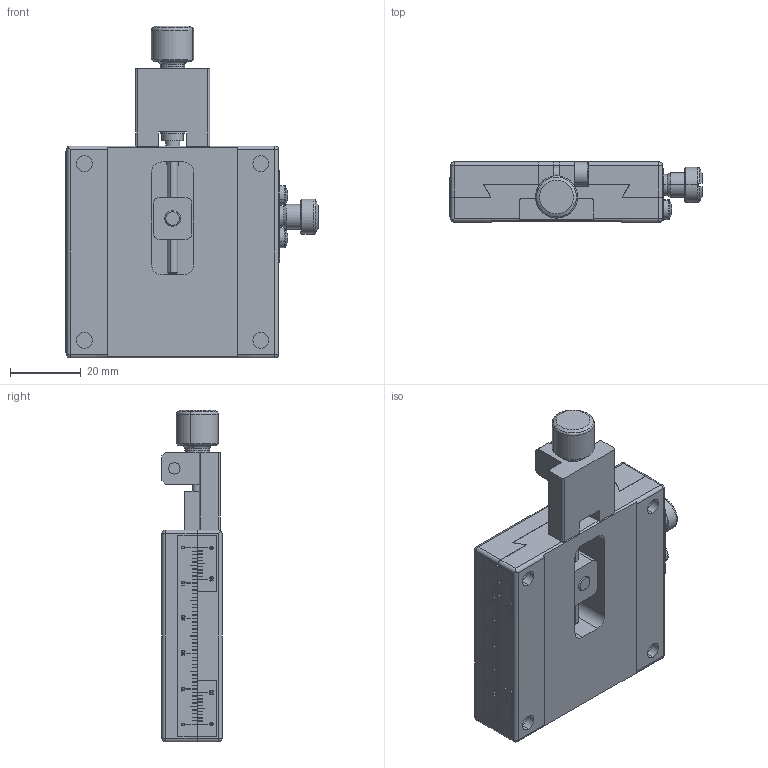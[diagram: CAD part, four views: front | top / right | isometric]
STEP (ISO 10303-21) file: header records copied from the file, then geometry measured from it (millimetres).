
FILE_DESCRIPTION (( 'STEP AP203' ), '1' );
FILE_NAME ('MC1A-60CL(«¬¿ý).STEP', '2014-11-10T00:57:17', ( '123' ), ( '' ), 'SwSTEP 2.0', 'SolidWorks 2014', '' );
FILE_SCHEMA (( 'CONFIG_CONTROL_DESIGN' ));
Length unit declared in the file: millimetre
Products named in the file (3): Group1^MC1A-60CL(型錄); Group2^MC1A-60CL(型錄); MC1A-60CL(型錄)
Assembly tree (2 placements, depth 2):
  MC1A-60CL(型錄)
    Group1^MC1A-60CL(型錄)
    Group2^MC1A-60CL(型錄)
Bounding box: 71.6 x 17 x 94 mm (x, y, z)
Volume: 62137 mm3; surface area: 26073.7 mm2
Topology: 5 solids, 5 shells, 1383 faces, 3634 edges, 2342 vertices
Faces by surface type: plane 855, bspline 250, cylinder 143, cone 112, torus 12, sphere 11
Entity records: 57159 total; most frequent: CARTESIAN_POINT 24220, ORIENTED_EDGE 7242, DIRECTION 5821, EDGE_CURVE 3621, VECTOR 2623, LINE 2623, VERTEX_POINT 2342, AXIS2_PLACEMENT_3D 1599
